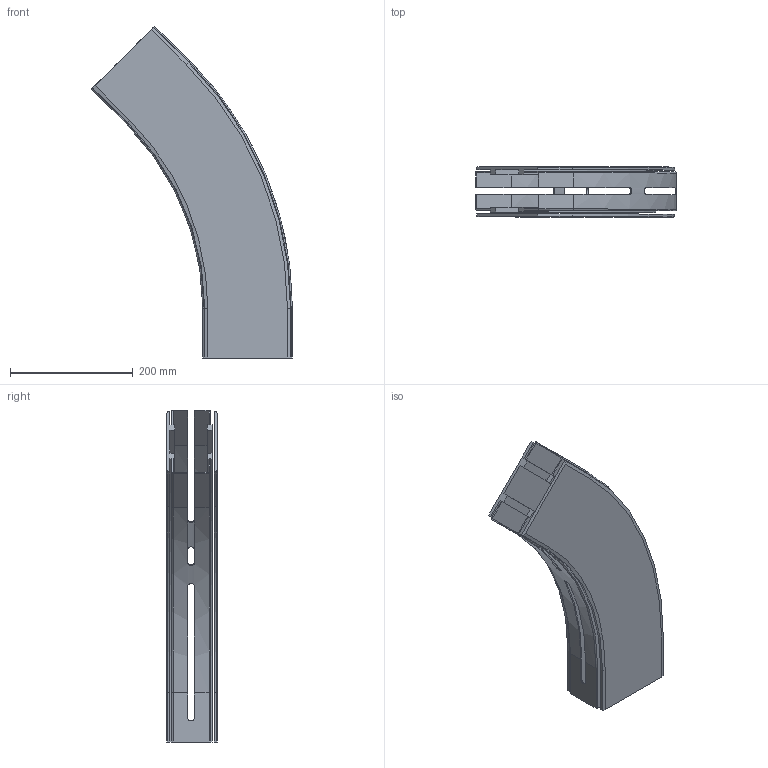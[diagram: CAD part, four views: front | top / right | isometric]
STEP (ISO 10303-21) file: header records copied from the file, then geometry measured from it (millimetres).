
FILE_DESCRIPTION((''),'2;1');
FILE_NAME('C:\Vault Klient\Projekt\Koncept konstruktion\Serie 540 Balk\540-5300.stp','2010-11-24T15:31:15',('Mathias'),(''),'Autodesk Inventor 2011','Autodesk Inventor 2011','');
FILE_SCHEMA(('AUTOMOTIVE_DESIGN { 1 0 10303 214 1 1 1 1 }'));
Length unit declared in the file: millimetre
Products named in the file (1): 540-5300
Bounding box: 327.63 x 82 x 541.74 mm (x, y, z)
Volume: 1247164.8 mm3; surface area: 643565.8 mm2
Topology: 2 solids, 2 shells, 163 faces, 458 edges, 300 vertices
Faces by surface type: plane 107, cylinder 28, bspline 18, cone 6, torus 4
Entity records: 5598 total; most frequent: CARTESIAN_POINT 1344, ORIENTED_EDGE 916, DIRECTION 798, EDGE_CURVE 458, VECTOR 338, LINE 338, VERTEX_POINT 300, AXIS2_PLACEMENT_3D 230
